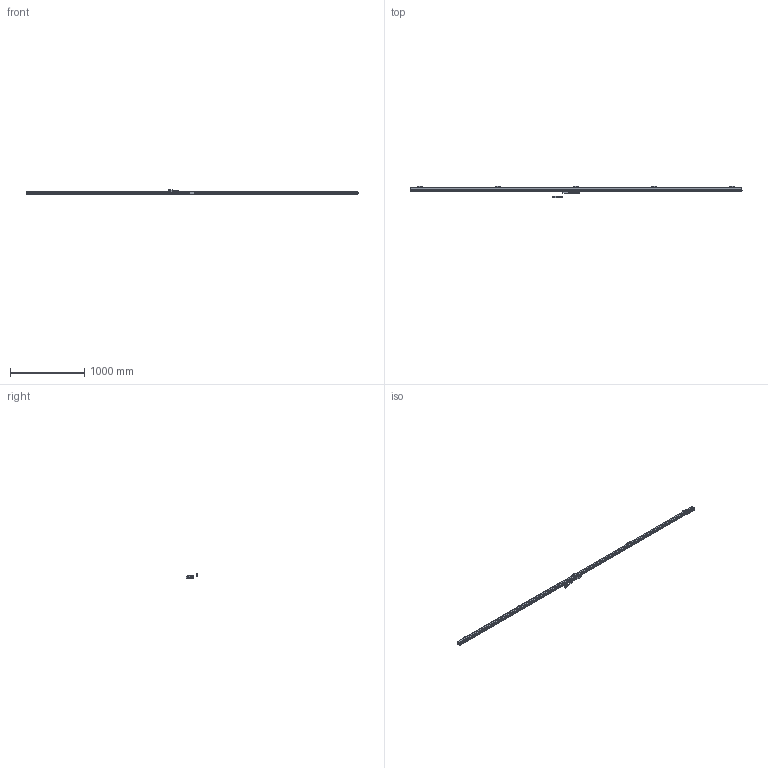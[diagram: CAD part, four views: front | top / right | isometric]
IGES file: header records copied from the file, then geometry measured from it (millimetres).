
Start section: Elysium IGES Interface
Global section: file name: 75H\\Utsu119s\kiyo_cad\data\3D\AT103\HP掲載用_201710\IGES\AT103_AT203-4250.igs; native system: Creo Elements/Direct Modeling 18.1B  29-Sep-2012; preprocessor: Creo Element/Direct IGES_3D V2.2; author: Unknown; organization: Unknown; date: 20180105.154932; units: millimetre
Bounding box: 4470 x 150.63 x 68 mm (x, y, z)
Volume: 7554005.6 mm3; surface area: 995143.9 mm2
Topology: 4 solids, 4 shells, 1401 faces, 3494 edges, 2171 vertices
Faces by surface type: bspline 1401
